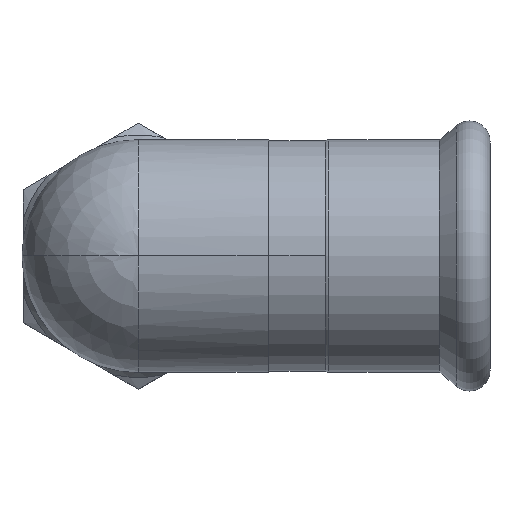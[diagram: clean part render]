
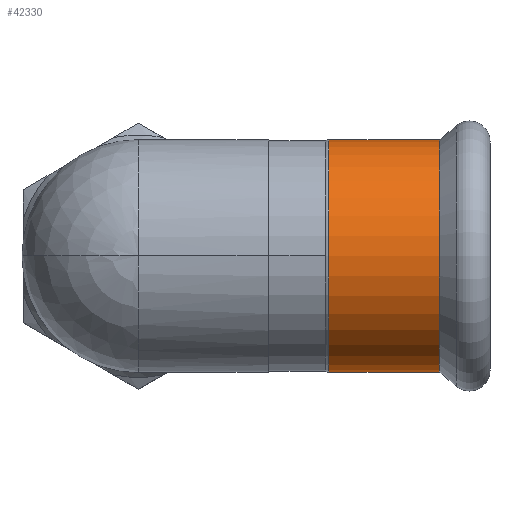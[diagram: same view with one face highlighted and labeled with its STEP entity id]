
A CAD part, top view. The second image highlights one B-rep face of the part: STEP entity #42330.
In plain terms, the highlighted cylindrical face has radius 19.15 mm (diameter 38.3 mm), a partial arc.
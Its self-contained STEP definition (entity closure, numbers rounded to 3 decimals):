
#27630=CARTESIAN_POINT('',(28.4,34.15,40.5));
#27640=VERTEX_POINT('',#27630);
#27670=CARTESIAN_POINT('',(28.4,15.,40.5));
#27680=DIRECTION('',(1.,0.,0.));
#27690=DIRECTION('',(0.,1.,0.));
#27700=AXIS2_PLACEMENT_3D('',#27670,#27680,#27690);
#27710=CIRCLE('',#27700,19.15);
#27720=CARTESIAN_POINT('',(28.4,-4.15,40.5));
#27730=VERTEX_POINT('',#27720);
#27740=EDGE_CURVE('',#27640,#27730,#27710,.T.);
#27960=CARTESIAN_POINT('',(37.26,-4.15,40.5));
#27970=DIRECTION('',(-1.,0.,0.));
#27980=VECTOR('',#27970,1.);
#27990=LINE('',#27960,#27980);
#28000=CARTESIAN_POINT('',(46.667,-4.15,40.5));
#28010=VERTEX_POINT('',#28000);
#28020=EDGE_CURVE('',#28010,#27730,#27990,.T.);
#28040=CARTESIAN_POINT('',(46.667,15.,40.5));
#28050=DIRECTION('',(1.,0.,0.));
#28060=DIRECTION('',(0.,1.,0.));
#28070=AXIS2_PLACEMENT_3D('',#28040,#28050,#28060);
#28080=CIRCLE('',#28070,19.15);
#28090=CARTESIAN_POINT('',(46.667,34.15,40.5));
#28100=VERTEX_POINT('',#28090);
#28130=CARTESIAN_POINT('',(37.26,34.15,40.5));
#28140=DIRECTION('',(-1.,0.,0.));
#28150=VECTOR('',#28140,1.);
#28160=LINE('',#28130,#28150);
#28170=EDGE_CURVE('',#28100,#27640,#28160,.T.);
#42210=CARTESIAN_POINT('',(37.26,15.,40.5));
#42220=DIRECTION('',(-1.,0.,0.));
#42230=DIRECTION('',(0.,1.,0.));
#42240=AXIS2_PLACEMENT_3D('',#42210,#42220,#42230);
#42250=CYLINDRICAL_SURFACE('',#42240,19.15);
#42260=EDGE_CURVE('',#28100,#28010,#28080,.T.);
#42270=ORIENTED_EDGE('',*,*,#42260,.F.);
#42280=ORIENTED_EDGE('',*,*,#28020,.F.);
#42290=ORIENTED_EDGE('',*,*,#27740,.T.);
#42300=ORIENTED_EDGE('',*,*,#28170,.T.);
#42310=EDGE_LOOP('',(#42300,#42290,#42280,#42270));
#42320=FACE_OUTER_BOUND('',#42310,.T.);
#42330=ADVANCED_FACE('',(#42320),#42250,.T.);
